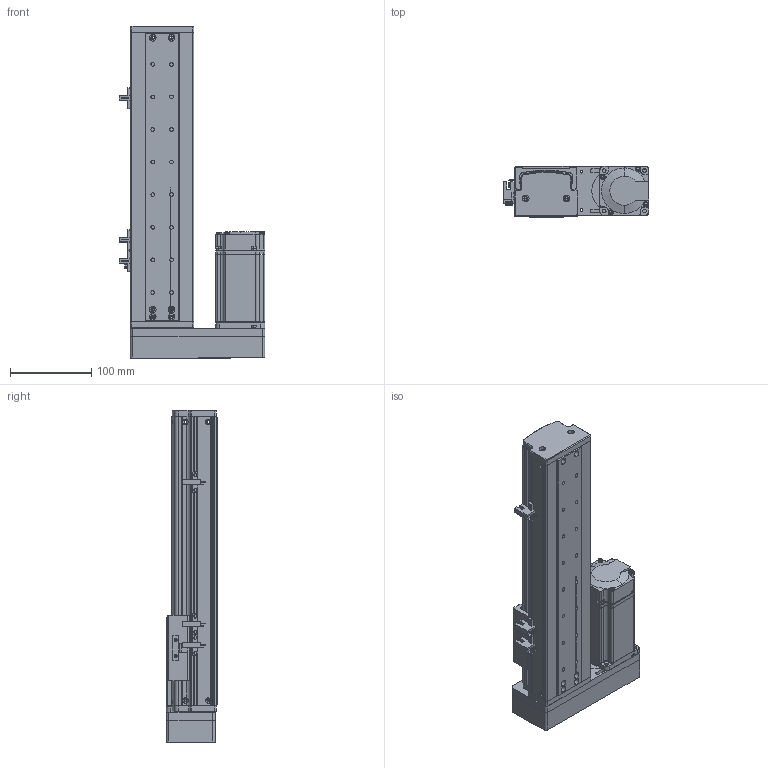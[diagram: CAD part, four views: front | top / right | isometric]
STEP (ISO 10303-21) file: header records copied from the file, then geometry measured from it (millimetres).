
FILE_DESCRIPTION (( 'STEP AP214' ), '1' );
FILE_NAME ('KSD75S-S200-ML-CM.STEP', '2019-10-18T06:54:46', ( '微软用户' ), ( '微软中国' ), 'SwSTEP 2.0', 'SolidWorks 2014', '' );
FILE_SCHEMA (( 'AUTOMOTIVE_DESIGN' ));
Length unit declared in the file: millimetre
Products named in the file (13): KSD75S-S200-ML-CM; MGW15H賑寢200俴最; MGW15H賑寢200俴最 ; 覜茼え100遵圉猾敕; 75宽马达安装板连板左右折丝杆; 75宽模组保护罩左右折; MHMD042G1CA_2_03; 75遵賑雄釱; ヶ傷啣; 綴傷啣 ; 75遵耀郪耜啣-200俴最; 75裔啣-200俴最; U倰嫖萇EEㄜSX672
Assembly tree (15 placements, depth 3):
  KSD75S-S200-ML-CM
    MGW15H賑寢200俴最 
      MGW15H賑寢200俴最
    75遵賑雄釱
    75遵耀郪耜啣-200俴最  x2
    75裔啣-200俴最
    ヶ傷啣
    綴傷啣 
    U倰嫖萇EEㄜSX672  x3
    覜茼え100遵圉猾敕
    75宽马达安装板连板左右折丝杆
    75宽模组保护罩左右折
    MHMD042G1CA_2_03
Bounding box: 178.7 x 63 x 407.5 mm (x, y, z)
Volume: 649980.4 mm3; surface area: 407222.1 mm2
Topology: 13 solids, 14 shells, 1413 faces, 4018 edges, 2621 vertices
Faces by surface type: cylinder 651, plane 615, cone 129, bspline 18
Entity records: 45378 total; most frequent: CARTESIAN_POINT 8668, DIRECTION 6704, ORIENTED_EDGE 6316, EDGE_CURVE 3229, AXIS2_PLACEMENT_3D 2436, VERTEX_POINT 2139, LINE 1832, VECTOR 1832
